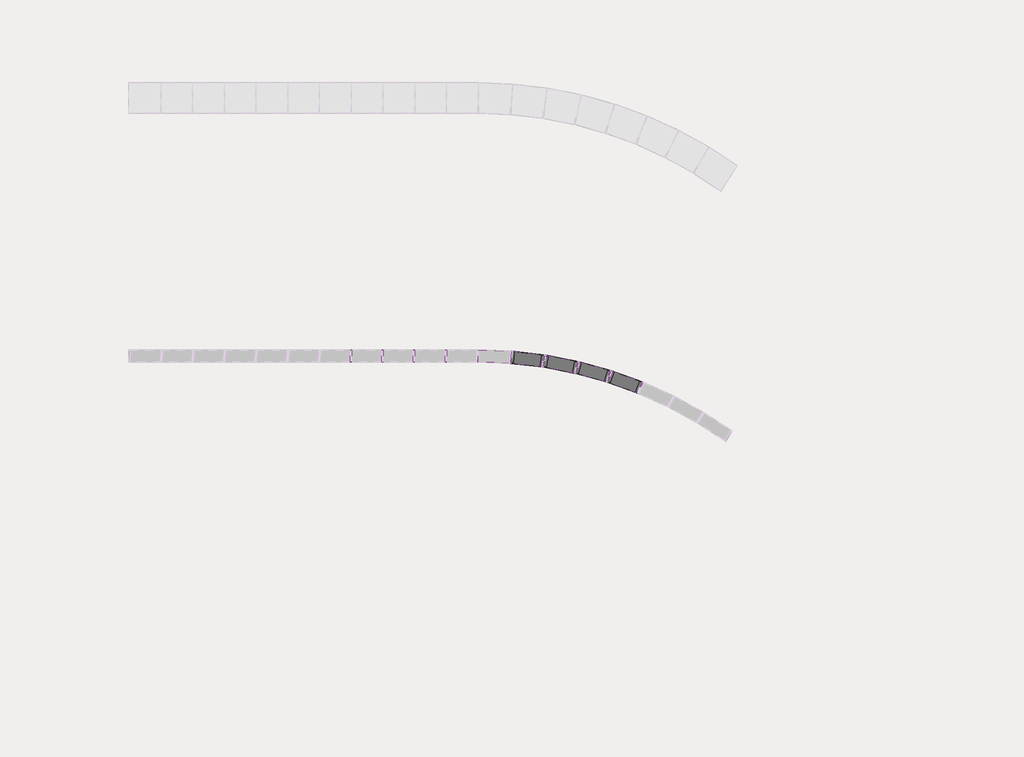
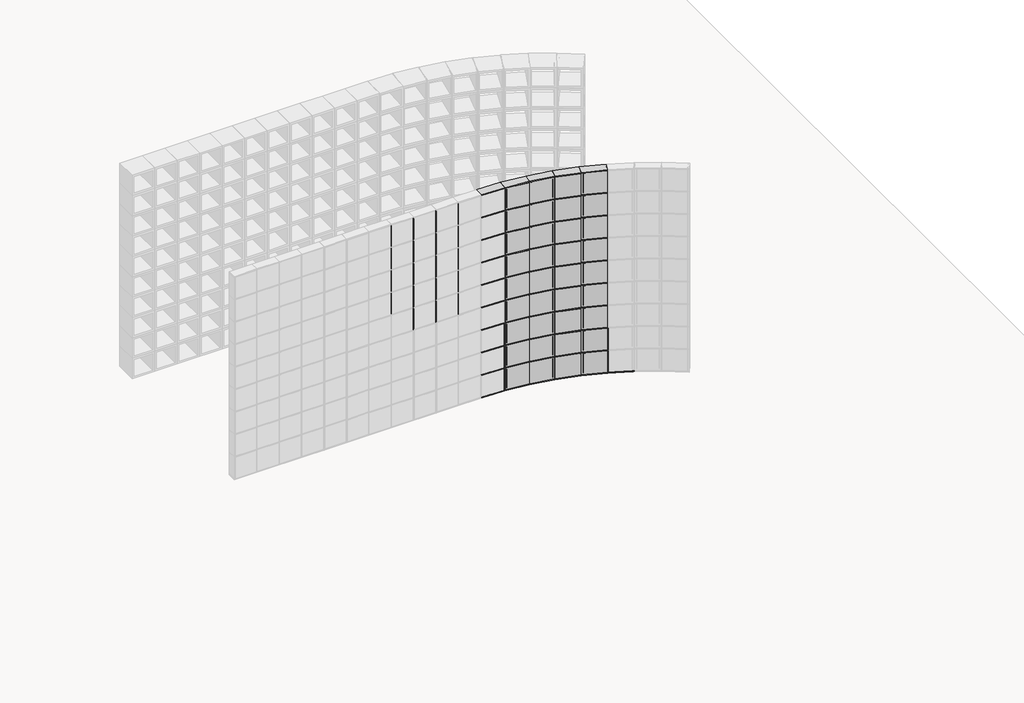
# One storey, part 5 of 15: 83 members, 36 plates.
"""IFC4 building model written with IfcOpenShell, lengths in millimetres."""

from ifc_helpers import new_model, si_unit, origin, place, context, project, spatial, transform, mapped, element, save
from components import rectangular_mullion_junta_tijolo_de_vidro_3e2591da, rectangular_mullion_junta_tijolo_de_vidro_4ff6911c, rectangular_mullion_junta_tijolo_de_vidro_7cde30b7, rectangular_mullion_junta_tijolo_de_vidro_b72cfb84, rectangular_mullion_junta_tijolo_de_vidro_a27529c7, rectangular_mullion_junta_tijolo_de_vidro_cb1579e5, rectangular_mullion_junta_tijolo_de_vidro_67e49f46, rectangular_mullion_junta_tijolo_de_vidro_72e2d02b, rectangular_mullion_junta_tijolo_de_vidro_0d08f91d, pnl_tijolo_de_vidro_ff913bde

model = new_model("IFC4")

# Units and contexts
model_context = context("Model", 3, world=origin())
ifc_project = project(units=[si_unit("LENGTHUNIT", "METRE", prefix="MILLI")], contexts=[model_context])

# Site, building, storey
site = spatial("IfcSite", under=ifc_project)
building = spatial("IfcBuilding", under=site)
storey = spatial("IfcBuildingStorey", under=building, Name="TÉRREO", Elevation=0.0)

# Members
placement = place(None, origin())
rectangular_mullion_junta_tijolo_de_vidro_shape = rectangular_mullion_junta_tijolo_de_vidro_3e2591da(model_context)
element("IfcMember", 1, ObjectType="Rectangular Mullion : JUNTA TIJOLO DE VIDRO", at=placement, inside=storey, context=model_context, shape_type="MappedRepresentation", body=[
    mapped(rectangular_mullion_junta_tijolo_de_vidro_shape, transform((45262.5668432, 2916.9852574, 894.4444444), x_axis=(1.0, 0.0, 0.0), y_axis=(0.0, -1.0, 0.0), z_axis=(0.0, 0.0, -1.0))),
])
element("IfcMember", 2, ObjectType="Rectangular Mullion : JUNTA TIJOLO DE VIDRO", at=placement, inside=storey, context=model_context, shape_type="MappedRepresentation", body=[
    mapped(rectangular_mullion_junta_tijolo_de_vidro_shape, transform((45470.7486614, 2916.9852574, 894.4444444), x_axis=(1.0, 0.0, 0.0), y_axis=(0.0, -1.0, 0.0), z_axis=(0.0, 0.0, -1.0))),
])
element("IfcMember", 3, ObjectType="Rectangular Mullion : JUNTA TIJOLO DE VIDRO", at=placement, inside=storey, context=model_context, shape_type="MappedRepresentation", body=[
    mapped(rectangular_mullion_junta_tijolo_de_vidro_shape, transform((45678.9304796, 2916.9852574, 894.4444444), x_axis=(1.0, 0.0, 0.0), y_axis=(0.0, -1.0, 0.0), z_axis=(0.0, 0.0, -1.0))),
])
element("IfcMember", 4, ObjectType="Rectangular Mullion : JUNTA TIJOLO DE VIDRO", at=placement, inside=storey, context=model_context, shape_type="MappedRepresentation", body=[
    mapped(rectangular_mullion_junta_tijolo_de_vidro_shape, transform((45054.385025, 2916.9852574, 1115.5555556), x_axis=(1.0, 0.0, 0.0), y_axis=(0.0, -1.0, 0.0), z_axis=(0.0, 0.0, -1.0))),
])
element("IfcMember", 5, ObjectType="Rectangular Mullion : JUNTA TIJOLO DE VIDRO", at=placement, inside=storey, context=model_context, shape_type="MappedRepresentation", body=[
    mapped(rectangular_mullion_junta_tijolo_de_vidro_shape, transform((45262.5668432, 2916.9852574, 1115.5555556), x_axis=(1.0, 0.0, 0.0), y_axis=(0.0, -1.0, 0.0), z_axis=(0.0, 0.0, -1.0))),
])
element("IfcMember", 6, ObjectType="Rectangular Mullion : JUNTA TIJOLO DE VIDRO", at=placement, inside=storey, context=model_context, shape_type="MappedRepresentation", body=[
    mapped(rectangular_mullion_junta_tijolo_de_vidro_shape, transform((45470.7486614, 2916.9852574, 1115.5555556), x_axis=(1.0, 0.0, 0.0), y_axis=(0.0, -1.0, 0.0), z_axis=(0.0, 0.0, -1.0))),
])
element("IfcMember", 7, ObjectType="Rectangular Mullion : JUNTA TIJOLO DE VIDRO", at=placement, inside=storey, context=model_context, shape_type="MappedRepresentation", body=[
    mapped(rectangular_mullion_junta_tijolo_de_vidro_shape, transform((45678.9304796, 2916.9852574, 1115.5555556), x_axis=(1.0, 0.0, 0.0), y_axis=(0.0, -1.0, 0.0), z_axis=(0.0, 0.0, -1.0))),
])
element("IfcMember", 8, ObjectType="Rectangular Mullion : JUNTA TIJOLO DE VIDRO", at=placement, inside=storey, context=model_context, shape_type="MappedRepresentation", body=[
    mapped(rectangular_mullion_junta_tijolo_de_vidro_shape, transform((45054.385025, 2916.9852574, 1336.6666667), x_axis=(1.0, 0.0, 0.0), y_axis=(0.0, -1.0, 0.0), z_axis=(0.0, 0.0, -1.0))),
])
element("IfcMember", 9, ObjectType="Rectangular Mullion : JUNTA TIJOLO DE VIDRO", at=placement, inside=storey, context=model_context, shape_type="MappedRepresentation", body=[
    mapped(rectangular_mullion_junta_tijolo_de_vidro_shape, transform((45262.5668432, 2916.9852574, 1336.6666667), x_axis=(1.0, 0.0, 0.0), y_axis=(0.0, -1.0, 0.0), z_axis=(0.0, 0.0, -1.0))),
])
element("IfcMember", 10, ObjectType="Rectangular Mullion : JUNTA TIJOLO DE VIDRO", at=placement, inside=storey, context=model_context, shape_type="MappedRepresentation", body=[
    mapped(rectangular_mullion_junta_tijolo_de_vidro_shape, transform((45470.7486614, 2916.9852574, 1336.6666667), x_axis=(1.0, 0.0, 0.0), y_axis=(0.0, -1.0, 0.0), z_axis=(0.0, 0.0, -1.0))),
])
element("IfcMember", 11, ObjectType="Rectangular Mullion : JUNTA TIJOLO DE VIDRO", at=placement, inside=storey, context=model_context, shape_type="MappedRepresentation", body=[
    mapped(rectangular_mullion_junta_tijolo_de_vidro_shape, transform((45678.9304796, 2916.9852574, 1336.6666667), x_axis=(1.0, 0.0, 0.0), y_axis=(0.0, -1.0, 0.0), z_axis=(0.0, 0.0, -1.0))),
])
element("IfcMember", 12, ObjectType="Rectangular Mullion : JUNTA TIJOLO DE VIDRO", at=placement, inside=storey, context=model_context, shape_type="MappedRepresentation", body=[
    mapped(rectangular_mullion_junta_tijolo_de_vidro_shape, transform((45054.385025, 2916.9852574, 1557.7777778), x_axis=(1.0, 0.0, 0.0), y_axis=(0.0, -1.0, 0.0), z_axis=(0.0, 0.0, -1.0))),
])
element("IfcMember", 13, ObjectType="Rectangular Mullion : JUNTA TIJOLO DE VIDRO", at=placement, inside=storey, context=model_context, shape_type="MappedRepresentation", body=[
    mapped(rectangular_mullion_junta_tijolo_de_vidro_shape, transform((45262.5668432, 2916.9852574, 1557.7777778), x_axis=(1.0, 0.0, 0.0), y_axis=(0.0, -1.0, 0.0), z_axis=(0.0, 0.0, -1.0))),
])
element("IfcMember", 14, ObjectType="Rectangular Mullion : JUNTA TIJOLO DE VIDRO", at=placement, inside=storey, context=model_context, shape_type="MappedRepresentation", body=[
    mapped(rectangular_mullion_junta_tijolo_de_vidro_shape, transform((45470.7486614, 2916.9852574, 1557.7777778), x_axis=(1.0, 0.0, 0.0), y_axis=(0.0, -1.0, 0.0), z_axis=(0.0, 0.0, -1.0))),
])
element("IfcMember", 15, ObjectType="Rectangular Mullion : JUNTA TIJOLO DE VIDRO", at=placement, inside=storey, context=model_context, shape_type="MappedRepresentation", body=[
    mapped(rectangular_mullion_junta_tijolo_de_vidro_shape, transform((45678.9304796, 2916.9852574, 1557.7777778), x_axis=(1.0, 0.0, 0.0), y_axis=(0.0, -1.0, 0.0), z_axis=(0.0, 0.0, -1.0))),
])
element("IfcMember", 16, ObjectType="Rectangular Mullion : JUNTA TIJOLO DE VIDRO", at=placement, inside=storey, context=model_context, shape_type="MappedRepresentation", body=[
    mapped(rectangular_mullion_junta_tijolo_de_vidro_shape, transform((45054.385025, 2916.9852574, 1778.8888889), x_axis=(1.0, 0.0, 0.0), y_axis=(0.0, -1.0, 0.0), z_axis=(0.0, 0.0, -1.0))),
])
element("IfcMember", 17, ObjectType="Rectangular Mullion : JUNTA TIJOLO DE VIDRO", at=placement, inside=storey, context=model_context, shape_type="MappedRepresentation", body=[
    mapped(rectangular_mullion_junta_tijolo_de_vidro_shape, transform((45262.5668432, 2916.9852574, 1778.8888889), x_axis=(1.0, 0.0, 0.0), y_axis=(0.0, -1.0, 0.0), z_axis=(0.0, 0.0, -1.0))),
])
element("IfcMember", 18, ObjectType="Rectangular Mullion : JUNTA TIJOLO DE VIDRO", at=placement, inside=storey, context=model_context, shape_type="MappedRepresentation", body=[
    mapped(rectangular_mullion_junta_tijolo_de_vidro_shape, transform((45470.7486614, 2916.9852574, 1778.8888889), x_axis=(1.0, 0.0, 0.0), y_axis=(0.0, -1.0, 0.0), z_axis=(0.0, 0.0, -1.0))),
])
element("IfcMember", 19, ObjectType="Rectangular Mullion : JUNTA TIJOLO DE VIDRO", at=placement, inside=storey, context=model_context, shape_type="MappedRepresentation", body=[
    mapped(rectangular_mullion_junta_tijolo_de_vidro_shape, transform((45678.9304796, 2916.9852574, 1778.8888889), x_axis=(1.0, 0.0, 0.0), y_axis=(0.0, -1.0, 0.0), z_axis=(0.0, 0.0, -1.0))),
])
element("IfcMember", 20, ObjectType="Rectangular Mullion : JUNTA TIJOLO DE VIDRO", at=placement, inside=storey, context=model_context, shape_type="MappedRepresentation", body=[
    mapped(rectangular_mullion_junta_tijolo_de_vidro_shape, transform((46107.2648215, 2908.8339158, 10.0), x_axis=(0.9971333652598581, -0.07566407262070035, 0.0), y_axis=(-0.07566407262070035, -0.9971333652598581, 0.0), z_axis=(0.0, 0.0, -1.0))),
])
element("IfcMember", 21, ObjectType="Rectangular Mullion : JUNTA TIJOLO DE VIDRO", at=placement, inside=storey, context=model_context, shape_type="MappedRepresentation", body=[
    mapped(rectangular_mullion_junta_tijolo_de_vidro_shape, transform((46326.1295296, 2883.6672477, 10.0), x_axis=(0.9882828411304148, -0.15263363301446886, 0.0), y_axis=(-0.15263363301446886, -0.9882828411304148, 0.0), z_axis=(0.0, 0.0, -1.0))),
])
element("IfcMember", 22, ObjectType="Rectangular Mullion : JUNTA TIJOLO DE VIDRO", at=placement, inside=storey, context=model_context, shape_type="MappedRepresentation", body=[
    mapped(rectangular_mullion_junta_tijolo_de_vidro_shape, transform((46542.3889863, 2841.6319172, 10.0), x_axis=(0.9735000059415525, -0.22868698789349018, 0.0), y_axis=(-0.22868698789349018, -0.9735000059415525, 0.0), z_axis=(0.0, 0.0, -1.0))),
])
element("IfcMember", 23, ObjectType="Rectangular Mullion : JUNTA TIJOLO DE VIDRO", at=placement, inside=storey, context=model_context, shape_type="MappedRepresentation", body=[
    mapped(rectangular_mullion_junta_tijolo_de_vidro_shape, transform((46754.7450629, 2782.9802475, 10.0), x_axis=(0.9528735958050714, -0.3033676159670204, 0.0), y_axis=(-0.3033676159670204, -0.9528735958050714, 0.0), z_axis=(0.0, 0.0, -1.0))),
])
element("IfcMember", 24, ObjectType="Rectangular Mullion : JUNTA TIJOLO DE VIDRO", at=placement, inside=storey, context=model_context, shape_type="MappedRepresentation", body=[
    mapped(rectangular_mullion_junta_tijolo_de_vidro_shape, transform((46961.9230613, 2708.0643037, 10.0), x_axis=(0.9265274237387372, -0.37622723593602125, 0.0), y_axis=(-0.37622723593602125, -0.9265274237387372, 0.0), z_axis=(0.0, 0.0, -1.0))),
])
element("IfcMember", 25, ObjectType="Rectangular Mullion : JUNTA TIJOLO DE VIDRO", at=placement, inside=storey, context=model_context, shape_type="MappedRepresentation", body=[
    mapped(rectangular_mullion_junta_tijolo_de_vidro_shape, transform((46107.2648215, 2908.8339158, 231.1111111), x_axis=(0.9971333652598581, -0.07566407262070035, 0.0), y_axis=(-0.07566407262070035, -0.9971333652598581, 0.0), z_axis=(0.0, 0.0, -1.0))),
])
element("IfcMember", 26, ObjectType="Rectangular Mullion : JUNTA TIJOLO DE VIDRO", at=placement, inside=storey, context=model_context, shape_type="MappedRepresentation", body=[
    mapped(rectangular_mullion_junta_tijolo_de_vidro_shape, transform((46326.1295296, 2883.6672477, 231.1111111), x_axis=(0.9882828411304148, -0.15263363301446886, 0.0), y_axis=(-0.15263363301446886, -0.9882828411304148, 0.0), z_axis=(0.0, 0.0, -1.0))),
])
element("IfcMember", 27, ObjectType="Rectangular Mullion : JUNTA TIJOLO DE VIDRO", at=placement, inside=storey, context=model_context, shape_type="MappedRepresentation", body=[
    mapped(rectangular_mullion_junta_tijolo_de_vidro_shape, transform((46542.3889863, 2841.6319172, 231.1111111), x_axis=(0.9735000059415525, -0.22868698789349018, 0.0), y_axis=(-0.22868698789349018, -0.9735000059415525, 0.0), z_axis=(0.0, 0.0, -1.0))),
])
element("IfcMember", 28, ObjectType="Rectangular Mullion : JUNTA TIJOLO DE VIDRO", at=placement, inside=storey, context=model_context, shape_type="MappedRepresentation", body=[
    mapped(rectangular_mullion_junta_tijolo_de_vidro_shape, transform((46754.7450629, 2782.9802475, 231.1111111), x_axis=(0.9528735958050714, -0.3033676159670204, 0.0), y_axis=(-0.3033676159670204, -0.9528735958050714, 0.0), z_axis=(0.0, 0.0, -1.0))),
])
element("IfcMember", 29, ObjectType="Rectangular Mullion : JUNTA TIJOLO DE VIDRO", at=placement, inside=storey, context=model_context, shape_type="MappedRepresentation", body=[
    mapped(rectangular_mullion_junta_tijolo_de_vidro_shape, transform((46961.9230613, 2708.0643037, 231.1111111), x_axis=(0.9265274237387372, -0.37622723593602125, 0.0), y_axis=(-0.37622723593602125, -0.9265274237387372, 0.0), z_axis=(0.0, 0.0, -1.0))),
])
element("IfcMember", 30, ObjectType="Rectangular Mullion : JUNTA TIJOLO DE VIDRO", at=placement, inside=storey, context=model_context, shape_type="MappedRepresentation", body=[
    mapped(rectangular_mullion_junta_tijolo_de_vidro_shape, transform((46107.2648215, 2908.8339158, 452.2222222), x_axis=(0.9971333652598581, -0.07566407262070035, 0.0), y_axis=(-0.07566407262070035, -0.9971333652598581, 0.0), z_axis=(0.0, 0.0, -1.0))),
])
element("IfcMember", 31, ObjectType="Rectangular Mullion : JUNTA TIJOLO DE VIDRO", at=placement, inside=storey, context=model_context, shape_type="MappedRepresentation", body=[
    mapped(rectangular_mullion_junta_tijolo_de_vidro_shape, transform((46326.1295296, 2883.6672477, 452.2222222), x_axis=(0.9882828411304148, -0.15263363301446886, 0.0), y_axis=(-0.15263363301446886, -0.9882828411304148, 0.0), z_axis=(0.0, 0.0, -1.0))),
])
element("IfcMember", 32, ObjectType="Rectangular Mullion : JUNTA TIJOLO DE VIDRO", at=placement, inside=storey, context=model_context, shape_type="MappedRepresentation", body=[
    mapped(rectangular_mullion_junta_tijolo_de_vidro_shape, transform((46542.3889863, 2841.6319172, 452.2222222), x_axis=(0.9735000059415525, -0.22868698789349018, 0.0), y_axis=(-0.22868698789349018, -0.9735000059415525, 0.0), z_axis=(0.0, 0.0, -1.0))),
])
rectangular_mullion_junta_tijolo_de_vidro_2_shape = rectangular_mullion_junta_tijolo_de_vidro_4ff6911c(model_context)
element("IfcMember", 33, ObjectType="Rectangular Mullion : JUNTA TIJOLO DE VIDRO", at=placement, inside=storey, context=model_context, shape_type="MappedRepresentation", body=[
    mapped(rectangular_mullion_junta_tijolo_de_vidro_2_shape, transform((46107.2648215, 2908.8339158, 2000.0), x_axis=(0.0, 0.0, 1.0), y_axis=(-0.037859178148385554, -0.9992830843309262, 0.0), z_axis=(0.999283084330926, -0.03785917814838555, 0.0))),
])
rectangular_mullion_junta_tijolo_de_vidro_3_shape = rectangular_mullion_junta_tijolo_de_vidro_7cde30b7(model_context)
element("IfcMember", 34, ObjectType="Rectangular Mullion : JUNTA TIJOLO DE VIDRO", at=placement, inside=storey, context=model_context, shape_type="MappedRepresentation", body=[
    mapped(rectangular_mullion_junta_tijolo_de_vidro_3_shape, transform((45892.1122977, 2916.9852574, 0.0), x_axis=(0.0, 0.0, -1.0), y_axis=(-0.037859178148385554, -0.9992830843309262, 0.0), z_axis=(-0.999283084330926, 0.03785917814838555, 0.0))),
])
rectangular_mullion_junta_tijolo_de_vidro_4_shape = rectangular_mullion_junta_tijolo_de_vidro_b72cfb84(model_context)
element("IfcMember", 35, ObjectType="Rectangular Mullion : JUNTA TIJOLO DE VIDRO", at=placement, inside=storey, context=model_context, shape_type="MappedRepresentation", body=[
    mapped(rectangular_mullion_junta_tijolo_de_vidro_4_shape, transform((46326.1295296, 2883.6672477, 2000.0), x_axis=(0.0, 0.0, 1.0), y_axis=(-0.1142345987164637, -0.9934538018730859, 0.0), z_axis=(0.9934538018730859, -0.1142345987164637, 0.0))),
])
rectangular_mullion_junta_tijolo_de_vidro_5_shape = rectangular_mullion_junta_tijolo_de_vidro_a27529c7(model_context)
element("IfcMember", 36, ObjectType="Rectangular Mullion : JUNTA TIJOLO DE VIDRO", at=placement, inside=storey, context=model_context, shape_type="MappedRepresentation", body=[
    mapped(rectangular_mullion_junta_tijolo_de_vidro_5_shape, transform((46542.3889863, 2841.6319172, 2000.0), x_axis=(0.0, 0.0, 1.0), y_axis=(-0.19080352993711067, -0.9816282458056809, 0.0), z_axis=(0.9816282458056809, -0.19080352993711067, 0.0))),
])
element("IfcMember", 37, ObjectType="Rectangular Mullion : JUNTA TIJOLO DE VIDRO", at=placement, inside=storey, context=model_context, shape_type="MappedRepresentation", body=[
    mapped(rectangular_mullion_junta_tijolo_de_vidro_5_shape, transform((46754.7450629, 2782.9802475, 2000.0), x_axis=(0.0, 0.0, 1.0), y_axis=(-0.2662271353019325, -0.9639103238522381, 0.0), z_axis=(0.9639103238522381, -0.2662271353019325, 0.0))),
])
element("IfcMember", 38, ObjectType="Rectangular Mullion : JUNTA TIJOLO DE VIDRO", at=placement, inside=storey, context=model_context, shape_type="MappedRepresentation", body=[
    mapped(rectangular_mullion_junta_tijolo_de_vidro_5_shape, transform((46961.9230613, 2708.0643037, 2000.0), x_axis=(0.0, 0.0, 1.0), y_axis=(-0.3400526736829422, -0.9404063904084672, 0.0), z_axis=(0.9404063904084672, -0.3400526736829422, 0.0))),
])
rectangular_mullion_junta_tijolo_de_vidro_6_shape = rectangular_mullion_junta_tijolo_de_vidro_cb1579e5(model_context)
element("IfcMember", 39, ObjectType="Rectangular Mullion : JUNTA TIJOLO DE VIDRO", at=placement, inside=storey, context=model_context, shape_type="MappedRepresentation", body=[
    mapped(rectangular_mullion_junta_tijolo_de_vidro_6_shape, transform((46107.2648215, 2908.8339158, 0.0), x_axis=(0.0, 0.0, -1.0), y_axis=(-0.1142345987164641, -0.9934538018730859, 0.0), z_axis=(-0.9934538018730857, 0.11423459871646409, 0.0))),
])
element("IfcMember", 40, ObjectType="Rectangular Mullion : JUNTA TIJOLO DE VIDRO", at=placement, inside=storey, context=model_context, shape_type="MappedRepresentation", body=[
    mapped(rectangular_mullion_junta_tijolo_de_vidro_5_shape, transform((46326.1295296, 2883.6672477, 0.0), x_axis=(0.0, 0.0, -1.0), y_axis=(-0.19080352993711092, -0.9816282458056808, 0.0), z_axis=(-0.9816282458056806, 0.1908035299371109, 0.0))),
])
element("IfcMember", 41, ObjectType="Rectangular Mullion : JUNTA TIJOLO DE VIDRO", at=placement, inside=storey, context=model_context, shape_type="MappedRepresentation", body=[
    mapped(rectangular_mullion_junta_tijolo_de_vidro_5_shape, transform((46542.3889863, 2841.6319172, 0.0), x_axis=(0.0, 0.0, -1.0), y_axis=(-0.2662271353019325, -0.9639103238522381, 0.0), z_axis=(-0.9639103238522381, 0.2662271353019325, 0.0))),
])
element("IfcMember", 42, ObjectType="Rectangular Mullion : JUNTA TIJOLO DE VIDRO", at=placement, inside=storey, context=model_context, shape_type="MappedRepresentation", body=[
    mapped(rectangular_mullion_junta_tijolo_de_vidro_5_shape, transform((46754.7450629, 2782.9802475, 0.0), x_axis=(0.0, 0.0, -1.0), y_axis=(-0.3400526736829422, -0.9404063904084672, 0.0), z_axis=(-0.9404063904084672, 0.3400526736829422, 0.0))),
])
element("IfcMember", 43, ObjectType="Rectangular Mullion : JUNTA TIJOLO DE VIDRO", at=placement, inside=storey, context=model_context, shape_type="MappedRepresentation", body=[
    mapped(rectangular_mullion_junta_tijolo_de_vidro_5_shape, transform((46961.9230613, 2708.0643037, 0.0), x_axis=(0.0, 0.0, -1.0), y_axis=(-0.4118369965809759, -0.9112575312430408, 0.0), z_axis=(-0.9112575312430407, 0.41183699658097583, 0.0))),
])
rectangular_mullion_junta_tijolo_de_vidro_7_shape = rectangular_mullion_junta_tijolo_de_vidro_67e49f46(model_context)
element("IfcMember", 44, ObjectType="Rectangular Mullion : JUNTA TIJOLO DE VIDRO", at=placement, inside=storey, context=model_context, shape_type="MappedRepresentation", body=[
    mapped(rectangular_mullion_junta_tijolo_de_vidro_7_shape, transform((46107.2648215, 2908.8339158, 226.1111111), x_axis=(0.0, 0.0, 1.0), y_axis=(-0.037859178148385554, -0.9992830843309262, 0.0), z_axis=(0.999283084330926, -0.03785917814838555, 0.0))),
])
element("IfcMember", 45, ObjectType="Rectangular Mullion : JUNTA TIJOLO DE VIDRO", at=placement, inside=storey, context=model_context, shape_type="MappedRepresentation", body=[
    mapped(rectangular_mullion_junta_tijolo_de_vidro_7_shape, transform((46107.2648215, 2908.8339158, 447.2222222), x_axis=(0.0, 0.0, 1.0), y_axis=(-0.037859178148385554, -0.9992830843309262, 0.0), z_axis=(0.999283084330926, -0.03785917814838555, 0.0))),
])
element("IfcMember", 46, ObjectType="Rectangular Mullion : JUNTA TIJOLO DE VIDRO", at=placement, inside=storey, context=model_context, shape_type="MappedRepresentation", body=[
    mapped(rectangular_mullion_junta_tijolo_de_vidro_7_shape, transform((46107.2648215, 2908.8339158, 668.3333333), x_axis=(0.0, 0.0, 1.0), y_axis=(-0.037859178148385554, -0.9992830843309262, 0.0), z_axis=(0.999283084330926, -0.03785917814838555, 0.0))),
])
element("IfcMember", 47, ObjectType="Rectangular Mullion : JUNTA TIJOLO DE VIDRO", at=placement, inside=storey, context=model_context, shape_type="MappedRepresentation", body=[
    mapped(rectangular_mullion_junta_tijolo_de_vidro_7_shape, transform((46107.2648215, 2908.8339158, 889.4444444), x_axis=(0.0, 0.0, 1.0), y_axis=(-0.037859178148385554, -0.9992830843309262, 0.0), z_axis=(0.999283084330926, -0.03785917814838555, 0.0))),
])
element("IfcMember", 48, ObjectType="Rectangular Mullion : JUNTA TIJOLO DE VIDRO", at=placement, inside=storey, context=model_context, shape_type="MappedRepresentation", body=[
    mapped(rectangular_mullion_junta_tijolo_de_vidro_7_shape, transform((46107.2648215, 2908.8339158, 1110.5555556), x_axis=(0.0, 0.0, 1.0), y_axis=(-0.037859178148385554, -0.9992830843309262, 0.0), z_axis=(0.999283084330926, -0.03785917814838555, 0.0))),
])
element("IfcMember", 49, ObjectType="Rectangular Mullion : JUNTA TIJOLO DE VIDRO", at=placement, inside=storey, context=model_context, shape_type="MappedRepresentation", body=[
    mapped(rectangular_mullion_junta_tijolo_de_vidro_7_shape, transform((46107.2648215, 2908.8339158, 1331.6666667), x_axis=(0.0, 0.0, 1.0), y_axis=(-0.037859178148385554, -0.9992830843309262, 0.0), z_axis=(0.999283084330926, -0.03785917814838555, 0.0))),
])
element("IfcMember", 50, ObjectType="Rectangular Mullion : JUNTA TIJOLO DE VIDRO", at=placement, inside=storey, context=model_context, shape_type="MappedRepresentation", body=[
    mapped(rectangular_mullion_junta_tijolo_de_vidro_7_shape, transform((46107.2648215, 2908.8339158, 1552.7777778), x_axis=(0.0, 0.0, 1.0), y_axis=(-0.037859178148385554, -0.9992830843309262, 0.0), z_axis=(0.999283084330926, -0.03785917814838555, 0.0))),
])
element("IfcMember", 51, ObjectType="Rectangular Mullion : JUNTA TIJOLO DE VIDRO", at=placement, inside=storey, context=model_context, shape_type="MappedRepresentation", body=[
    mapped(rectangular_mullion_junta_tijolo_de_vidro_7_shape, transform((46107.2648215, 2908.8339158, 1773.8888889), x_axis=(0.0, 0.0, 1.0), y_axis=(-0.037859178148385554, -0.9992830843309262, 0.0), z_axis=(0.999283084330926, -0.03785917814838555, 0.0))),
])
rectangular_mullion_junta_tijolo_de_vidro_8_shape = rectangular_mullion_junta_tijolo_de_vidro_72e2d02b(model_context)
element("IfcMember", 52, ObjectType="Rectangular Mullion : JUNTA TIJOLO DE VIDRO", at=placement, inside=storey, context=model_context, shape_type="MappedRepresentation", body=[
    mapped(rectangular_mullion_junta_tijolo_de_vidro_8_shape, transform((46326.1295296, 2883.6672477, 226.1111111), x_axis=(0.0, 0.0, 1.0), y_axis=(-0.1142345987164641, -0.9934538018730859, 0.0), z_axis=(0.9934538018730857, -0.11423459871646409, 0.0))),
])
element("IfcMember", 53, ObjectType="Rectangular Mullion : JUNTA TIJOLO DE VIDRO", at=placement, inside=storey, context=model_context, shape_type="MappedRepresentation", body=[
    mapped(rectangular_mullion_junta_tijolo_de_vidro_8_shape, transform((46326.1295296, 2883.6672477, 447.2222222), x_axis=(0.0, 0.0, 1.0), y_axis=(-0.1142345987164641, -0.9934538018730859, 0.0), z_axis=(0.9934538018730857, -0.11423459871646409, 0.0))),
])
element("IfcMember", 54, ObjectType="Rectangular Mullion : JUNTA TIJOLO DE VIDRO", at=placement, inside=storey, context=model_context, shape_type="MappedRepresentation", body=[
    mapped(rectangular_mullion_junta_tijolo_de_vidro_8_shape, transform((46326.1295296, 2883.6672477, 668.3333333), x_axis=(0.0, 0.0, 1.0), y_axis=(-0.1142345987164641, -0.9934538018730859, 0.0), z_axis=(0.9934538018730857, -0.11423459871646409, 0.0))),
])
element("IfcMember", 55, ObjectType="Rectangular Mullion : JUNTA TIJOLO DE VIDRO", at=placement, inside=storey, context=model_context, shape_type="MappedRepresentation", body=[
    mapped(rectangular_mullion_junta_tijolo_de_vidro_8_shape, transform((46326.1295296, 2883.6672477, 889.4444444), x_axis=(0.0, 0.0, 1.0), y_axis=(-0.1142345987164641, -0.9934538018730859, 0.0), z_axis=(0.9934538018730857, -0.11423459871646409, 0.0))),
])
element("IfcMember", 56, ObjectType="Rectangular Mullion : JUNTA TIJOLO DE VIDRO", at=placement, inside=storey, context=model_context, shape_type="MappedRepresentation", body=[
    mapped(rectangular_mullion_junta_tijolo_de_vidro_8_shape, transform((46326.1295296, 2883.6672477, 1110.5555556), x_axis=(0.0, 0.0, 1.0), y_axis=(-0.1142345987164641, -0.9934538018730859, 0.0), z_axis=(0.9934538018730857, -0.11423459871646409, 0.0))),
])
element("IfcMember", 57, ObjectType="Rectangular Mullion : JUNTA TIJOLO DE VIDRO", at=placement, inside=storey, context=model_context, shape_type="MappedRepresentation", body=[
    mapped(rectangular_mullion_junta_tijolo_de_vidro_8_shape, transform((46326.1295296, 2883.6672477, 1331.6666667), x_axis=(0.0, 0.0, 1.0), y_axis=(-0.1142345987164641, -0.9934538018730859, 0.0), z_axis=(0.9934538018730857, -0.11423459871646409, 0.0))),
])
element("IfcMember", 58, ObjectType="Rectangular Mullion : JUNTA TIJOLO DE VIDRO", at=placement, inside=storey, context=model_context, shape_type="MappedRepresentation", body=[
    mapped(rectangular_mullion_junta_tijolo_de_vidro_8_shape, transform((46326.1295296, 2883.6672477, 1552.7777778), x_axis=(0.0, 0.0, 1.0), y_axis=(-0.1142345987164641, -0.9934538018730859, 0.0), z_axis=(0.9934538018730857, -0.11423459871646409, 0.0))),
])
element("IfcMember", 59, ObjectType="Rectangular Mullion : JUNTA TIJOLO DE VIDRO", at=placement, inside=storey, context=model_context, shape_type="MappedRepresentation", body=[
    mapped(rectangular_mullion_junta_tijolo_de_vidro_8_shape, transform((46326.1295296, 2883.6672477, 1773.8888889), x_axis=(0.0, 0.0, 1.0), y_axis=(-0.1142345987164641, -0.9934538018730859, 0.0), z_axis=(0.9934538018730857, -0.11423459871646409, 0.0))),
])
rectangular_mullion_junta_tijolo_de_vidro_9_shape = rectangular_mullion_junta_tijolo_de_vidro_0d08f91d(model_context)
element("IfcMember", 60, ObjectType="Rectangular Mullion : JUNTA TIJOLO DE VIDRO", at=placement, inside=storey, context=model_context, shape_type="MappedRepresentation", body=[
    mapped(rectangular_mullion_junta_tijolo_de_vidro_9_shape, transform((46542.3889863, 2841.6319172, 226.1111111), x_axis=(0.0, 0.0, 1.0), y_axis=(-0.19080352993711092, -0.9816282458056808, 0.0), z_axis=(0.9816282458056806, -0.1908035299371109, 0.0))),
])
element("IfcMember", 61, ObjectType="Rectangular Mullion : JUNTA TIJOLO DE VIDRO", at=placement, inside=storey, context=model_context, shape_type="MappedRepresentation", body=[
    mapped(rectangular_mullion_junta_tijolo_de_vidro_9_shape, transform((46754.7450629, 2782.9802475, 226.1111111), x_axis=(0.0, 0.0, 1.0), y_axis=(-0.2662271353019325, -0.9639103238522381, 0.0), z_axis=(0.9639103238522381, -0.2662271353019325, 0.0))),
])
element("IfcMember", 62, ObjectType="Rectangular Mullion : JUNTA TIJOLO DE VIDRO", at=placement, inside=storey, context=model_context, shape_type="MappedRepresentation", body=[
    mapped(rectangular_mullion_junta_tijolo_de_vidro_9_shape, transform((46961.9230613, 2708.0643037, 226.1111111), x_axis=(0.0, 0.0, 1.0), y_axis=(-0.3400526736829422, -0.9404063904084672, 0.0), z_axis=(0.9404063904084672, -0.3400526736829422, 0.0))),
])
element("IfcMember", 63, ObjectType="Rectangular Mullion : JUNTA TIJOLO DE VIDRO", at=placement, inside=storey, context=model_context, shape_type="MappedRepresentation", body=[
    mapped(rectangular_mullion_junta_tijolo_de_vidro_9_shape, transform((46542.3889863, 2841.6319172, 447.2222222), x_axis=(0.0, 0.0, 1.0), y_axis=(-0.19080352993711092, -0.9816282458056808, 0.0), z_axis=(0.9816282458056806, -0.1908035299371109, 0.0))),
])
element("IfcMember", 64, ObjectType="Rectangular Mullion : JUNTA TIJOLO DE VIDRO", at=placement, inside=storey, context=model_context, shape_type="MappedRepresentation", body=[
    mapped(rectangular_mullion_junta_tijolo_de_vidro_9_shape, transform((46754.7450629, 2782.9802475, 447.2222222), x_axis=(0.0, 0.0, 1.0), y_axis=(-0.2662271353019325, -0.9639103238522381, 0.0), z_axis=(0.9639103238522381, -0.2662271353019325, 0.0))),
])
element("IfcMember", 65, ObjectType="Rectangular Mullion : JUNTA TIJOLO DE VIDRO", at=placement, inside=storey, context=model_context, shape_type="MappedRepresentation", body=[
    mapped(rectangular_mullion_junta_tijolo_de_vidro_9_shape, transform((46961.9230613, 2708.0643037, 447.2222222), x_axis=(0.0, 0.0, 1.0), y_axis=(-0.3400526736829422, -0.9404063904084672, 0.0), z_axis=(0.9404063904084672, -0.3400526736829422, 0.0))),
])
element("IfcMember", 66, ObjectType="Rectangular Mullion : JUNTA TIJOLO DE VIDRO", at=placement, inside=storey, context=model_context, shape_type="MappedRepresentation", body=[
    mapped(rectangular_mullion_junta_tijolo_de_vidro_9_shape, transform((46542.3889863, 2841.6319172, 668.3333333), x_axis=(0.0, 0.0, 1.0), y_axis=(-0.19080352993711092, -0.9816282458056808, 0.0), z_axis=(0.9816282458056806, -0.1908035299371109, 0.0))),
])
element("IfcMember", 67, ObjectType="Rectangular Mullion : JUNTA TIJOLO DE VIDRO", at=placement, inside=storey, context=model_context, shape_type="MappedRepresentation", body=[
    mapped(rectangular_mullion_junta_tijolo_de_vidro_9_shape, transform((46754.7450629, 2782.9802475, 668.3333333), x_axis=(0.0, 0.0, 1.0), y_axis=(-0.2662271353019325, -0.9639103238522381, 0.0), z_axis=(0.9639103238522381, -0.2662271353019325, 0.0))),
])
element("IfcMember", 68, ObjectType="Rectangular Mullion : JUNTA TIJOLO DE VIDRO", at=placement, inside=storey, context=model_context, shape_type="MappedRepresentation", body=[
    mapped(rectangular_mullion_junta_tijolo_de_vidro_9_shape, transform((46961.9230613, 2708.0643037, 668.3333333), x_axis=(0.0, 0.0, 1.0), y_axis=(-0.3400526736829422, -0.9404063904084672, 0.0), z_axis=(0.9404063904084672, -0.3400526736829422, 0.0))),
])
element("IfcMember", 69, ObjectType="Rectangular Mullion : JUNTA TIJOLO DE VIDRO", at=placement, inside=storey, context=model_context, shape_type="MappedRepresentation", body=[
    mapped(rectangular_mullion_junta_tijolo_de_vidro_9_shape, transform((46542.3889863, 2841.6319172, 889.4444444), x_axis=(0.0, 0.0, 1.0), y_axis=(-0.19080352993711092, -0.9816282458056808, 0.0), z_axis=(0.9816282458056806, -0.1908035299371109, 0.0))),
])
element("IfcMember", 70, ObjectType="Rectangular Mullion : JUNTA TIJOLO DE VIDRO", at=placement, inside=storey, context=model_context, shape_type="MappedRepresentation", body=[
    mapped(rectangular_mullion_junta_tijolo_de_vidro_9_shape, transform((46754.7450629, 2782.9802475, 889.4444444), x_axis=(0.0, 0.0, 1.0), y_axis=(-0.2662271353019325, -0.9639103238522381, 0.0), z_axis=(0.9639103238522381, -0.2662271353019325, 0.0))),
])
element("IfcMember", 71, ObjectType="Rectangular Mullion : JUNTA TIJOLO DE VIDRO", at=placement, inside=storey, context=model_context, shape_type="MappedRepresentation", body=[
    mapped(rectangular_mullion_junta_tijolo_de_vidro_9_shape, transform((46961.9230613, 2708.0643037, 889.4444444), x_axis=(0.0, 0.0, 1.0), y_axis=(-0.3400526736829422, -0.9404063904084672, 0.0), z_axis=(0.9404063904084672, -0.3400526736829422, 0.0))),
])
element("IfcMember", 72, ObjectType="Rectangular Mullion : JUNTA TIJOLO DE VIDRO", at=placement, inside=storey, context=model_context, shape_type="MappedRepresentation", body=[
    mapped(rectangular_mullion_junta_tijolo_de_vidro_9_shape, transform((46542.3889863, 2841.6319172, 1110.5555556), x_axis=(0.0, 0.0, 1.0), y_axis=(-0.19080352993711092, -0.9816282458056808, 0.0), z_axis=(0.9816282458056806, -0.1908035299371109, 0.0))),
])
element("IfcMember", 73, ObjectType="Rectangular Mullion : JUNTA TIJOLO DE VIDRO", at=placement, inside=storey, context=model_context, shape_type="MappedRepresentation", body=[
    mapped(rectangular_mullion_junta_tijolo_de_vidro_9_shape, transform((46754.7450629, 2782.9802475, 1110.5555556), x_axis=(0.0, 0.0, 1.0), y_axis=(-0.2662271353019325, -0.9639103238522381, 0.0), z_axis=(0.9639103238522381, -0.2662271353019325, 0.0))),
])
element("IfcMember", 74, ObjectType="Rectangular Mullion : JUNTA TIJOLO DE VIDRO", at=placement, inside=storey, context=model_context, shape_type="MappedRepresentation", body=[
    mapped(rectangular_mullion_junta_tijolo_de_vidro_9_shape, transform((46961.9230613, 2708.0643037, 1110.5555556), x_axis=(0.0, 0.0, 1.0), y_axis=(-0.3400526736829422, -0.9404063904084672, 0.0), z_axis=(0.9404063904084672, -0.3400526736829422, 0.0))),
])
element("IfcMember", 75, ObjectType="Rectangular Mullion : JUNTA TIJOLO DE VIDRO", at=placement, inside=storey, context=model_context, shape_type="MappedRepresentation", body=[
    mapped(rectangular_mullion_junta_tijolo_de_vidro_9_shape, transform((46542.3889863, 2841.6319172, 1331.6666667), x_axis=(0.0, 0.0, 1.0), y_axis=(-0.19080352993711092, -0.9816282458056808, 0.0), z_axis=(0.9816282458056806, -0.1908035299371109, 0.0))),
])
element("IfcMember", 76, ObjectType="Rectangular Mullion : JUNTA TIJOLO DE VIDRO", at=placement, inside=storey, context=model_context, shape_type="MappedRepresentation", body=[
    mapped(rectangular_mullion_junta_tijolo_de_vidro_9_shape, transform((46754.7450629, 2782.9802475, 1331.6666667), x_axis=(0.0, 0.0, 1.0), y_axis=(-0.2662271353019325, -0.9639103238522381, 0.0), z_axis=(0.9639103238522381, -0.2662271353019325, 0.0))),
])
element("IfcMember", 77, ObjectType="Rectangular Mullion : JUNTA TIJOLO DE VIDRO", at=placement, inside=storey, context=model_context, shape_type="MappedRepresentation", body=[
    mapped(rectangular_mullion_junta_tijolo_de_vidro_9_shape, transform((46961.9230613, 2708.0643037, 1331.6666667), x_axis=(0.0, 0.0, 1.0), y_axis=(-0.3400526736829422, -0.9404063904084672, 0.0), z_axis=(0.9404063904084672, -0.3400526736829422, 0.0))),
])
element("IfcMember", 78, ObjectType="Rectangular Mullion : JUNTA TIJOLO DE VIDRO", at=placement, inside=storey, context=model_context, shape_type="MappedRepresentation", body=[
    mapped(rectangular_mullion_junta_tijolo_de_vidro_9_shape, transform((46542.3889863, 2841.6319172, 1552.7777778), x_axis=(0.0, 0.0, 1.0), y_axis=(-0.19080352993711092, -0.9816282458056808, 0.0), z_axis=(0.9816282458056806, -0.1908035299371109, 0.0))),
])
element("IfcMember", 79, ObjectType="Rectangular Mullion : JUNTA TIJOLO DE VIDRO", at=placement, inside=storey, context=model_context, shape_type="MappedRepresentation", body=[
    mapped(rectangular_mullion_junta_tijolo_de_vidro_9_shape, transform((46754.7450629, 2782.9802475, 1552.7777778), x_axis=(0.0, 0.0, 1.0), y_axis=(-0.2662271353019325, -0.9639103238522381, 0.0), z_axis=(0.9639103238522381, -0.2662271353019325, 0.0))),
])
element("IfcMember", 80, ObjectType="Rectangular Mullion : JUNTA TIJOLO DE VIDRO", at=placement, inside=storey, context=model_context, shape_type="MappedRepresentation", body=[
    mapped(rectangular_mullion_junta_tijolo_de_vidro_9_shape, transform((46961.9230613, 2708.0643037, 1552.7777778), x_axis=(0.0, 0.0, 1.0), y_axis=(-0.3400526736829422, -0.9404063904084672, 0.0), z_axis=(0.9404063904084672, -0.3400526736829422, 0.0))),
])
element("IfcMember", 81, ObjectType="Rectangular Mullion : JUNTA TIJOLO DE VIDRO", at=placement, inside=storey, context=model_context, shape_type="MappedRepresentation", body=[
    mapped(rectangular_mullion_junta_tijolo_de_vidro_9_shape, transform((46542.3889863, 2841.6319172, 1773.8888889), x_axis=(0.0, 0.0, 1.0), y_axis=(-0.19080352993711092, -0.9816282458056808, 0.0), z_axis=(0.9816282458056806, -0.1908035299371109, 0.0))),
])
element("IfcMember", 82, ObjectType="Rectangular Mullion : JUNTA TIJOLO DE VIDRO", at=placement, inside=storey, context=model_context, shape_type="MappedRepresentation", body=[
    mapped(rectangular_mullion_junta_tijolo_de_vidro_9_shape, transform((46754.7450629, 2782.9802475, 1773.8888889), x_axis=(0.0, 0.0, 1.0), y_axis=(-0.2662271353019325, -0.9639103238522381, 0.0), z_axis=(0.9639103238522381, -0.2662271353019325, 0.0))),
])
element("IfcMember", 83, ObjectType="Rectangular Mullion : JUNTA TIJOLO DE VIDRO", at=placement, inside=storey, context=model_context, shape_type="MappedRepresentation", body=[
    mapped(rectangular_mullion_junta_tijolo_de_vidro_9_shape, transform((46961.9230613, 2708.0643037, 1773.8888889), x_axis=(0.0, 0.0, 1.0), y_axis=(-0.3400526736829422, -0.9404063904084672, 0.0), z_axis=(0.9404063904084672, -0.3400526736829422, 0.0))),
])

# Plates
pnl_tijolo_de_vidro_shape = pnl_tijolo_de_vidro_ff913bde(model_context)
element("IfcPlate", 84, ObjectType="pnl - TIJOLO DE VIDRO : e = 8", at=placement, inside=storey, context=model_context, shape_type="MappedRepresentation", body=[
    mapped(pnl_tijolo_de_vidro_shape, transform((46216.6971755, 2896.2505818, 10.0), x_axis=(0.9934538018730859, -0.1142345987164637, 0.0), y_axis=(0.1142345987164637, 0.9934538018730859, 0.0), z_axis=(0.0, 0.0, 1.0))),
])
element("IfcPlate", 85, ObjectType="pnl - TIJOLO DE VIDRO : e = 8", at=placement, inside=storey, context=model_context, shape_type="MappedRepresentation", body=[
    mapped(pnl_tijolo_de_vidro_shape, transform((46434.2592579, 2862.6495825, 10.0), x_axis=(0.9816282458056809, -0.19080352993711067, 0.0), y_axis=(0.19080352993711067, 0.9816282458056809, 0.0), z_axis=(0.0, 0.0, 1.0))),
])
element("IfcPlate", 86, ObjectType="pnl - TIJOLO DE VIDRO : e = 8", at=placement, inside=storey, context=model_context, shape_type="MappedRepresentation", body=[
    mapped(pnl_tijolo_de_vidro_shape, transform((46648.5670246, 2812.3060824, 10.0), x_axis=(0.9639103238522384, -0.26622713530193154, 0.0), y_axis=(0.26622713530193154, 0.9639103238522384, 0.0), z_axis=(0.0, 0.0, 1.0))),
])
element("IfcPlate", 87, ObjectType="pnl - TIJOLO DE VIDRO : e = 8", at=placement, inside=storey, context=model_context, shape_type="MappedRepresentation", body=[
    mapped(pnl_tijolo_de_vidro_shape, transform((46858.3340621, 2745.5222756, 10.0), x_axis=(0.9404063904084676, -0.3400526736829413, 0.0), y_axis=(0.3400526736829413, 0.9404063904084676, 0.0), z_axis=(0.0, 0.0, 1.0))),
])
element("IfcPlate", 88, ObjectType="pnl - TIJOLO DE VIDRO : e = 8", at=placement, inside=storey, context=model_context, shape_type="MappedRepresentation", body=[
    mapped(pnl_tijolo_de_vidro_shape, transform((46216.6971755, 2896.2505818, 231.1111111), x_axis=(0.9934538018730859, -0.11423459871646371, 0.0), y_axis=(0.11423459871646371, 0.9934538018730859, 0.0), z_axis=(0.0, 0.0, 1.0))),
])
element("IfcPlate", 89, ObjectType="pnl - TIJOLO DE VIDRO : e = 8", at=placement, inside=storey, context=model_context, shape_type="MappedRepresentation", body=[
    mapped(pnl_tijolo_de_vidro_shape, transform((46434.2592579, 2862.6495825, 231.1111111), x_axis=(0.9816282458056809, -0.1908035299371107, 0.0), y_axis=(0.1908035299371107, 0.9816282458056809, 0.0), z_axis=(0.0, 0.0, 1.0))),
])
element("IfcPlate", 90, ObjectType="pnl - TIJOLO DE VIDRO : e = 8", at=placement, inside=storey, context=model_context, shape_type="MappedRepresentation", body=[
    mapped(pnl_tijolo_de_vidro_shape, transform((46648.5670246, 2812.3060824, 231.1111111), x_axis=(0.9639103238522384, -0.2662271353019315, 0.0), y_axis=(0.2662271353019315, 0.9639103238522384, 0.0), z_axis=(0.0, 0.0, 1.0))),
])
element("IfcPlate", 91, ObjectType="pnl - TIJOLO DE VIDRO : e = 8", at=placement, inside=storey, context=model_context, shape_type="MappedRepresentation", body=[
    mapped(pnl_tijolo_de_vidro_shape, transform((46858.3340621, 2745.5222756, 231.1111111), x_axis=(0.9404063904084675, -0.3400526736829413, 0.0), y_axis=(0.3400526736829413, 0.9404063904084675, 0.0), z_axis=(0.0, 0.0, 1.0))),
])
element("IfcPlate", 92, ObjectType="pnl - TIJOLO DE VIDRO : e = 8", at=placement, inside=storey, context=model_context, shape_type="MappedRepresentation", body=[
    mapped(pnl_tijolo_de_vidro_shape, transform((46216.6971755, 2896.2505818, 452.2222222), x_axis=(0.9934538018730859, -0.1142345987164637, 0.0), y_axis=(0.1142345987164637, 0.9934538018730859, 0.0), z_axis=(0.0, 0.0, 1.0))),
])
element("IfcPlate", 93, ObjectType="pnl - TIJOLO DE VIDRO : e = 8", at=placement, inside=storey, context=model_context, shape_type="MappedRepresentation", body=[
    mapped(pnl_tijolo_de_vidro_shape, transform((46434.2592579, 2862.6495825, 452.2222222), x_axis=(0.9816282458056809, -0.1908035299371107, 0.0), y_axis=(0.1908035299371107, 0.9816282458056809, 0.0), z_axis=(0.0, 0.0, 1.0))),
])
element("IfcPlate", 94, ObjectType="pnl - TIJOLO DE VIDRO : e = 8", at=placement, inside=storey, context=model_context, shape_type="MappedRepresentation", body=[
    mapped(pnl_tijolo_de_vidro_shape, transform((46648.5670246, 2812.3060824, 452.2222222), x_axis=(0.9639103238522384, -0.2662271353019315, 0.0), y_axis=(0.2662271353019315, 0.9639103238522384, 0.0), z_axis=(0.0, 0.0, 1.0))),
])
element("IfcPlate", 95, ObjectType="pnl - TIJOLO DE VIDRO : e = 8", at=placement, inside=storey, context=model_context, shape_type="MappedRepresentation", body=[
    mapped(pnl_tijolo_de_vidro_shape, transform((46858.3340621, 2745.5222756, 452.2222222), x_axis=(0.9404063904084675, -0.34005267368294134, 0.0), y_axis=(0.34005267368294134, 0.9404063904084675, 0.0), z_axis=(0.0, 0.0, 1.0))),
])
element("IfcPlate", 96, ObjectType="pnl - TIJOLO DE VIDRO : e = 8", at=placement, inside=storey, context=model_context, shape_type="MappedRepresentation", body=[
    mapped(pnl_tijolo_de_vidro_shape, transform((46216.6971755, 2896.2505818, 673.3333333), x_axis=(0.9934538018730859, -0.11423459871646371, 0.0), y_axis=(0.11423459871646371, 0.9934538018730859, 0.0), z_axis=(0.0, 0.0, 1.0))),
])
element("IfcPlate", 97, ObjectType="pnl - TIJOLO DE VIDRO : e = 8", at=placement, inside=storey, context=model_context, shape_type="MappedRepresentation", body=[
    mapped(pnl_tijolo_de_vidro_shape, transform((46434.2592579, 2862.6495825, 673.3333333), x_axis=(0.9816282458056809, -0.1908035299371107, 0.0), y_axis=(0.1908035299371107, 0.9816282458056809, 0.0), z_axis=(0.0, 0.0, 1.0))),
])
element("IfcPlate", 98, ObjectType="pnl - TIJOLO DE VIDRO : e = 8", at=placement, inside=storey, context=model_context, shape_type="MappedRepresentation", body=[
    mapped(pnl_tijolo_de_vidro_shape, transform((46648.5670246, 2812.3060824, 673.3333333), x_axis=(0.9639103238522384, -0.2662271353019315, 0.0), y_axis=(0.2662271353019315, 0.9639103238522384, 0.0), z_axis=(0.0, 0.0, 1.0))),
])
element("IfcPlate", 99, ObjectType="pnl - TIJOLO DE VIDRO : e = 8", at=placement, inside=storey, context=model_context, shape_type="MappedRepresentation", body=[
    mapped(pnl_tijolo_de_vidro_shape, transform((46858.3340621, 2745.5222756, 673.3333333), x_axis=(0.9404063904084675, -0.3400526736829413, 0.0), y_axis=(0.3400526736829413, 0.9404063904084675, 0.0), z_axis=(0.0, 0.0, 1.0))),
])
element("IfcPlate", 100, ObjectType="pnl - TIJOLO DE VIDRO : e = 8", at=placement, inside=storey, context=model_context, shape_type="MappedRepresentation", body=[
    mapped(pnl_tijolo_de_vidro_shape, transform((46216.6971755, 2896.2505818, 894.4444444), x_axis=(0.9934538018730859, -0.11423459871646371, 0.0), y_axis=(0.11423459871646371, 0.9934538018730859, 0.0), z_axis=(0.0, 0.0, 1.0))),
])
element("IfcPlate", 101, ObjectType="pnl - TIJOLO DE VIDRO : e = 8", at=placement, inside=storey, context=model_context, shape_type="MappedRepresentation", body=[
    mapped(pnl_tijolo_de_vidro_shape, transform((46434.2592579, 2862.6495825, 894.4444444), x_axis=(0.9816282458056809, -0.1908035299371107, 0.0), y_axis=(0.1908035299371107, 0.9816282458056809, 0.0), z_axis=(0.0, 0.0, 1.0))),
])
element("IfcPlate", 102, ObjectType="pnl - TIJOLO DE VIDRO : e = 8", at=placement, inside=storey, context=model_context, shape_type="MappedRepresentation", body=[
    mapped(pnl_tijolo_de_vidro_shape, transform((46648.5670246, 2812.3060824, 894.4444444), x_axis=(0.9639103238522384, -0.2662271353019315, 0.0), y_axis=(0.2662271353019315, 0.9639103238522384, 0.0), z_axis=(0.0, 0.0, 1.0))),
])
element("IfcPlate", 103, ObjectType="pnl - TIJOLO DE VIDRO : e = 8", at=placement, inside=storey, context=model_context, shape_type="MappedRepresentation", body=[
    mapped(pnl_tijolo_de_vidro_shape, transform((46858.3340621, 2745.5222756, 894.4444444), x_axis=(0.9404063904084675, -0.3400526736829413, 0.0), y_axis=(0.3400526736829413, 0.9404063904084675, 0.0), z_axis=(0.0, 0.0, 1.0))),
])
element("IfcPlate", 104, ObjectType="pnl - TIJOLO DE VIDRO : e = 8", at=placement, inside=storey, context=model_context, shape_type="MappedRepresentation", body=[
    mapped(pnl_tijolo_de_vidro_shape, transform((46216.6971755, 2896.2505818, 1115.5555556), x_axis=(0.9934538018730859, -0.11423459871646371, 0.0), y_axis=(0.11423459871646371, 0.9934538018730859, 0.0), z_axis=(0.0, 0.0, 1.0))),
])
element("IfcPlate", 105, ObjectType="pnl - TIJOLO DE VIDRO : e = 8", at=placement, inside=storey, context=model_context, shape_type="MappedRepresentation", body=[
    mapped(pnl_tijolo_de_vidro_shape, transform((46434.2592579, 2862.6495825, 1115.5555556), x_axis=(0.9816282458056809, -0.19080352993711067, 0.0), y_axis=(0.19080352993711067, 0.9816282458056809, 0.0), z_axis=(0.0, 0.0, 1.0))),
])
element("IfcPlate", 106, ObjectType="pnl - TIJOLO DE VIDRO : e = 8", at=placement, inside=storey, context=model_context, shape_type="MappedRepresentation", body=[
    mapped(pnl_tijolo_de_vidro_shape, transform((46648.5670246, 2812.3060824, 1115.5555556), x_axis=(0.9639103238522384, -0.26622713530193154, 0.0), y_axis=(0.26622713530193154, 0.9639103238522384, 0.0), z_axis=(0.0, 0.0, 1.0))),
])
element("IfcPlate", 107, ObjectType="pnl - TIJOLO DE VIDRO : e = 8", at=placement, inside=storey, context=model_context, shape_type="MappedRepresentation", body=[
    mapped(pnl_tijolo_de_vidro_shape, transform((46858.3340621, 2745.5222756, 1115.5555556), x_axis=(0.9404063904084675, -0.34005267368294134, 0.0), y_axis=(0.34005267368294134, 0.9404063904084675, 0.0), z_axis=(0.0, 0.0, 1.0))),
])
element("IfcPlate", 108, ObjectType="pnl - TIJOLO DE VIDRO : e = 8", at=placement, inside=storey, context=model_context, shape_type="MappedRepresentation", body=[
    mapped(pnl_tijolo_de_vidro_shape, transform((46216.6971755, 2896.2505818, 1336.6666667), x_axis=(0.9934538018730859, -0.11423459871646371, 0.0), y_axis=(0.11423459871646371, 0.9934538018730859, 0.0), z_axis=(0.0, 0.0, 1.0))),
])
element("IfcPlate", 109, ObjectType="pnl - TIJOLO DE VIDRO : e = 8", at=placement, inside=storey, context=model_context, shape_type="MappedRepresentation", body=[
    mapped(pnl_tijolo_de_vidro_shape, transform((46434.2592579, 2862.6495825, 1336.6666667), x_axis=(0.9816282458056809, -0.19080352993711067, 0.0), y_axis=(0.19080352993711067, 0.9816282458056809, 0.0), z_axis=(0.0, 0.0, 1.0))),
])
element("IfcPlate", 110, ObjectType="pnl - TIJOLO DE VIDRO : e = 8", at=placement, inside=storey, context=model_context, shape_type="MappedRepresentation", body=[
    mapped(pnl_tijolo_de_vidro_shape, transform((46648.5670246, 2812.3060824, 1336.6666667), x_axis=(0.9639103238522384, -0.26622713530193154, 0.0), y_axis=(0.26622713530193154, 0.9639103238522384, 0.0), z_axis=(0.0, 0.0, 1.0))),
])
element("IfcPlate", 111, ObjectType="pnl - TIJOLO DE VIDRO : e = 8", at=placement, inside=storey, context=model_context, shape_type="MappedRepresentation", body=[
    mapped(pnl_tijolo_de_vidro_shape, transform((46858.3340621, 2745.5222756, 1336.6666667), x_axis=(0.9404063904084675, -0.3400526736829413, 0.0), y_axis=(0.3400526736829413, 0.9404063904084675, 0.0), z_axis=(0.0, 0.0, 1.0))),
])
element("IfcPlate", 112, ObjectType="pnl - TIJOLO DE VIDRO : e = 8", at=placement, inside=storey, context=model_context, shape_type="MappedRepresentation", body=[
    mapped(pnl_tijolo_de_vidro_shape, transform((46216.6971755, 2896.2505818, 1557.7777778), x_axis=(0.9934538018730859, -0.11423459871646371, 0.0), y_axis=(0.11423459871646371, 0.9934538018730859, 0.0), z_axis=(0.0, 0.0, 1.0))),
])
element("IfcPlate", 113, ObjectType="pnl - TIJOLO DE VIDRO : e = 8", at=placement, inside=storey, context=model_context, shape_type="MappedRepresentation", body=[
    mapped(pnl_tijolo_de_vidro_shape, transform((46434.2592579, 2862.6495825, 1557.7777778), x_axis=(0.9816282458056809, -0.19080352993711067, 0.0), y_axis=(0.19080352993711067, 0.9816282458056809, 0.0), z_axis=(0.0, 0.0, 1.0))),
])
element("IfcPlate", 114, ObjectType="pnl - TIJOLO DE VIDRO : e = 8", at=placement, inside=storey, context=model_context, shape_type="MappedRepresentation", body=[
    mapped(pnl_tijolo_de_vidro_shape, transform((46648.5670246, 2812.3060824, 1557.7777778), x_axis=(0.9639103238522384, -0.26622713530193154, 0.0), y_axis=(0.26622713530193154, 0.9639103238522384, 0.0), z_axis=(0.0, 0.0, 1.0))),
])
element("IfcPlate", 115, ObjectType="pnl - TIJOLO DE VIDRO : e = 8", at=placement, inside=storey, context=model_context, shape_type="MappedRepresentation", body=[
    mapped(pnl_tijolo_de_vidro_shape, transform((46858.3340621, 2745.5222756, 1557.7777778), x_axis=(0.9404063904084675, -0.3400526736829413, 0.0), y_axis=(0.3400526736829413, 0.9404063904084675, 0.0), z_axis=(0.0, 0.0, 1.0))),
])
element("IfcPlate", 116, ObjectType="pnl - TIJOLO DE VIDRO : e = 8", at=placement, inside=storey, context=model_context, shape_type="MappedRepresentation", body=[
    mapped(pnl_tijolo_de_vidro_shape, transform((46216.6971755, 2896.2505818, 1778.8888889), x_axis=(0.9934538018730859, -0.11423459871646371, 0.0), y_axis=(0.11423459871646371, 0.9934538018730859, 0.0), z_axis=(0.0, 0.0, 1.0))),
])
element("IfcPlate", 117, ObjectType="pnl - TIJOLO DE VIDRO : e = 8", at=placement, inside=storey, context=model_context, shape_type="MappedRepresentation", body=[
    mapped(pnl_tijolo_de_vidro_shape, transform((46434.2592579, 2862.6495825, 1778.8888889), x_axis=(0.9816282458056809, -0.19080352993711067, 0.0), y_axis=(0.19080352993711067, 0.9816282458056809, 0.0), z_axis=(0.0, 0.0, 1.0))),
])
element("IfcPlate", 118, ObjectType="pnl - TIJOLO DE VIDRO : e = 8", at=placement, inside=storey, context=model_context, shape_type="MappedRepresentation", body=[
    mapped(pnl_tijolo_de_vidro_shape, transform((46648.5670246, 2812.3060824, 1778.8888889), x_axis=(0.9639103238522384, -0.26622713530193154, 0.0), y_axis=(0.26622713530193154, 0.9639103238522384, 0.0), z_axis=(0.0, 0.0, 1.0))),
])
element("IfcPlate", 119, ObjectType="pnl - TIJOLO DE VIDRO : e = 8", at=placement, inside=storey, context=model_context, shape_type="MappedRepresentation", body=[
    mapped(pnl_tijolo_de_vidro_shape, transform((46858.3340621, 2745.5222756, 1778.8888889), x_axis=(0.9404063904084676, -0.3400526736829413, 0.0), y_axis=(0.3400526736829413, 0.9404063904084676, 0.0), z_axis=(0.0, 0.0, 1.0))),
])

save(model, "model.ifc")
